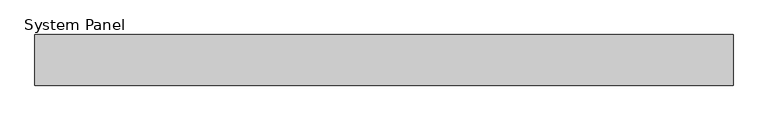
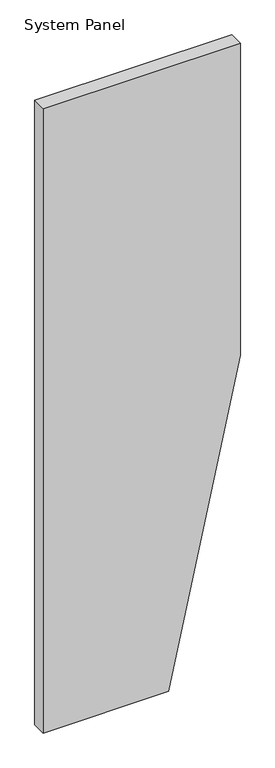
"""IFC4 building model written with IfcOpenShell, lengths in millimetres: plate geometry, System Panel : Inspire 80mm Vertical - Plain RHEA-PIR."""

from ifc_helpers import new_model, si_unit, frame, origin, place, context, project, spatial, polyline, outline, extrude, source, transform, mapped, element, save


def system_panel_bf4ea7ad(model_context):
    return source(origin(), model_context, "Body", "SweptSolid", [
        extrude(outline(polyline([(0.0, -550.0), (0.0, 150.0), (1839.9852118, 550.0), (3679.9704237, 550.0), (3679.9704237, -550.0), (0.0, -550.0)])), frame((0.0, -80.0, 0.0), z_axis=(0.0, 1.0, 0.0), x_axis=(0.0, 0.0, 1.0)), (0.0, 0.0, 1.0), 80.0),
    ])


if __name__ == "__main__":
    model = new_model("IFC4")
    model_context = context("Model", 3, world=origin())
    ifc_project = project(units=[si_unit("LENGTHUNIT", "METRE", prefix="MILLI")], contexts=[model_context])
    site = spatial("IfcSite", under=ifc_project)
    building = spatial("IfcBuilding", under=site)
    placement = place(None, origin())
    system_panel_shape = system_panel_bf4ea7ad(model_context)
    element("IfcPlate", 1, ObjectType="System Panel : Inspire 80mm Vertical - Plain RHEA-PIR", at=placement, inside=building, context=model_context, shape_type="MappedRepresentation", body=[
        mapped(system_panel_shape, transform((0.0, 0.0, 0.0), x_axis=(1.0, 0.0, 0.0), y_axis=(0.0, 1.0, 0.0), z_axis=(0.0, 0.0, 1.0))),
    ])
    save(model, "model.ifc")
